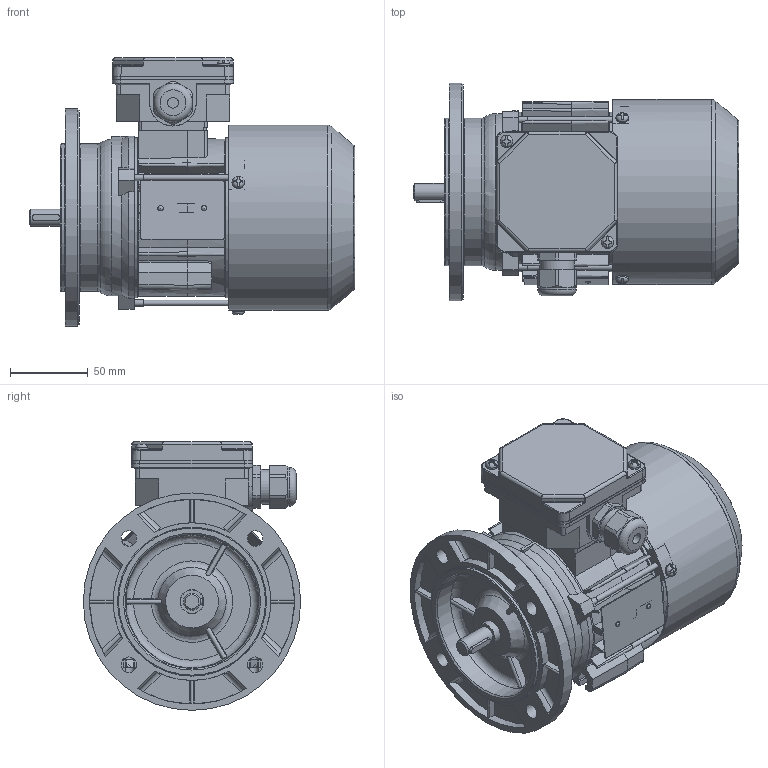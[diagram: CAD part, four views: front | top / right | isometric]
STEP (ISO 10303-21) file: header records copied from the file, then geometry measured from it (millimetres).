
FILE_DESCRIPTION(/* description */ ('Unknown'),/* implementation_level */ '2;1');
FILE_NAME(/* name */ '2SIEK63-4B',/* time_stamp */ '2021-04-12T11:42:48+02:00',/* author */ ('Unknown'),/* organization */ ('Unknown'),/* preprocessor_version */ 'ST-DEVELOPER v16.7',/* originating_system */ 'Solid Edge',/* authorisation */ 'Unknown');
FILE_SCHEMA (('AUTOMOTIVE_DESIGN {1 0 10303 214 3 1 1}'));
Length unit declared in the file: millimetre
Products named in the file (1): 2SIEK63-4B
Bounding box: 209.49 x 140 x 173 mm (x, y, z)
Volume: 511955.3 mm3; surface area: 324821.1 mm2
Topology: 2 solids, 2 shells, 1744 faces, 4910 edges, 3199 vertices
Faces by surface type: plane 890, cylinder 517, cone 112, torus 112, bspline 92, sphere 21
Full cylindrical faces by diameter (mm): 2.4 x2, 3.3 x3, 3.7 x7, 4 x5, 4.5 x3, 4.8 x2, 5 x2, 7 x4, 8 x6, 10 x4, 10.999 x1, 12.899 x1, 13.099 x1, 14.998 x2, 15.4 x2, 18.998 x2, 19.498 x1, 19.998 x1, 20.098 x1, 21.518 x4, 22.3 x1, 25 x1, 28 x2, 28.48 x4, 31 x2, 35 x3, 71.993 x1, 95 x2, 96 x1, 99 x2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
Entity records: 70649 total; most frequent: CARTESIAN_POINT 15239, ORIENTED_EDGE 9206, DIRECTION 8604, EDGE_CURVE 4603, AXIS2_PLACEMENT_3D 3172, VERTEX_POINT 3086, LINE 2260, VECTOR 2260
